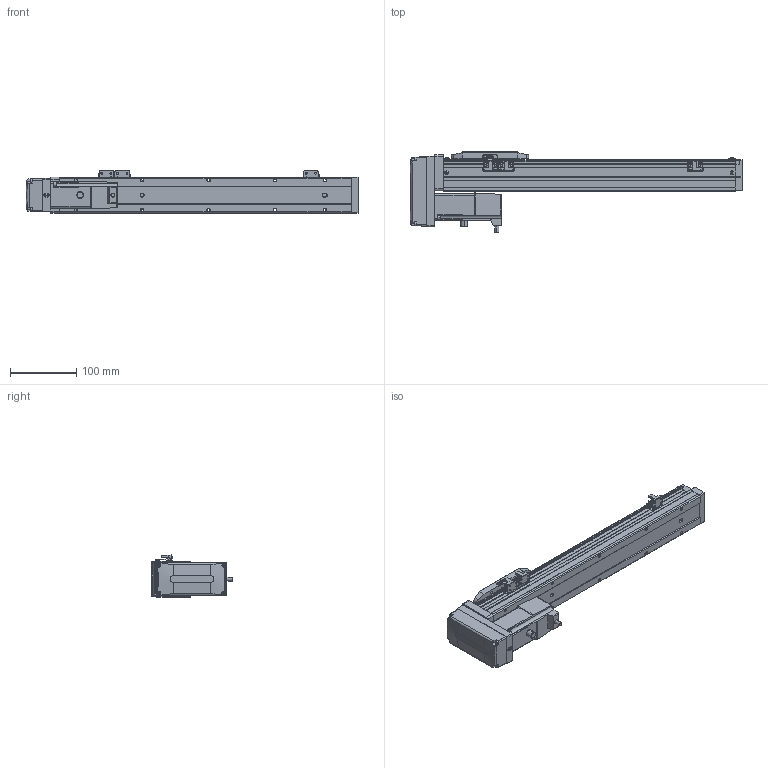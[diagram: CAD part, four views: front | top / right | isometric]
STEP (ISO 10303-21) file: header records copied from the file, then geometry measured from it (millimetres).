
FILE_DESCRIPTION (( 'STEP AP203' ), '1' );
FILE_NAME ('CTH5-L10-S300-BM-C10(¼ò).STEP', '2023-02-04T02:22:40', ( '' ), ( '' ), 'SwSTEP 2.0', 'SolidWorks 2018', '' );
FILE_SCHEMA (( 'CONFIG_CONTROL_DESIGN' ));
Length unit declared in the file: millimetre
Products named in the file (22): 内六角圆柱头螺钉M3-2; CTH5耜蚾欶; PM-Y45; hex nuts, style 1-grades ab gb_GB_FASTENER_NUT_SNAB1 M3-N; 葩璃 蚾饜极16^CTH5-L10-S300-BM-C10(潠); T10-p1; CTH5綴耜啣; CTH100W假蚾啣; CTH嫖萇羲壽假蚾啣; CTH5耜晚蹟隊-1; 嫖萇羲壽郪磁1; CTH5-L10-S300-BM-C10(潠); M3｡｣; CTH5耜晚蹟隊; 葩璃 蚾饜极13^CTH8-L10-S50-BM-C40(潠)1; 100W萇儂; CTH5ヶ耜啣(潠); CTH5覜茼え; CTH5賑怢; CTH5菁釱-L440; CTH5-BL-T10_body5; CTH5耜蚾蟀諉啣(潠)
Assembly tree (37 placements, depth 4):
  CTH5-L10-S300-BM-C10(潠)
    CTH5綴耜啣
    CTH5賑怢
    CTH5ヶ耜啣(潠)
    CTH5菁釱-L440
    CTH5耜晚蹟隊  x2
    嫖萇羲壽郪磁1  x2
      CTH嫖萇羲壽假蚾啣
      PM-Y45
      M3｡｣
      内六角圆柱头螺钉M3-2
      hex nuts, style 1-grades ab gb_GB_FASTENER_NUT_SNAB1 M3-N
    CTH5覜茼え
    葩璃 蚾饜极13^CTH8-L10-S50-BM-C40(潠)1
      CTH嫖萇羲壽假蚾啣
      PM-Y45
      内六角圆柱头螺钉M3-2  x2
      M3｡｣  x2
      hex nuts, style 1-grades ab gb_GB_FASTENER_NUT_SNAB1 M3-N  x2
    CTH5耜晚蹟隊-1  x4
    葩璃 蚾饜极16^CTH5-L10-S300-BM-C10(潠)
      CTH5耜蚾蟀諉啣(潠)
      CTH5耜蚾欶
        CTH5-BL-T10_body5
      100W萇儂
        T10-p1
      CTH100W假蚾啣
Bounding box: 500 x 122.21 x 63.3 mm (x, y, z)
Volume: 1351910.5 mm3; surface area: 209845 mm2
Topology: 39 solids, 39 shells, 1583 faces, 3965 edges, 2564 vertices
Faces by surface type: plane 890, cylinder 460, cone 175, torus 40, bspline 18
Entity records: 36667 total; most frequent: CARTESIAN_POINT 6788, DIRECTION 5769, ORIENTED_EDGE 5554, EDGE_CURVE 2777, AXIS2_PLACEMENT_3D 1976, VECTOR 1817, LINE 1817, VERTEX_POINT 1792
